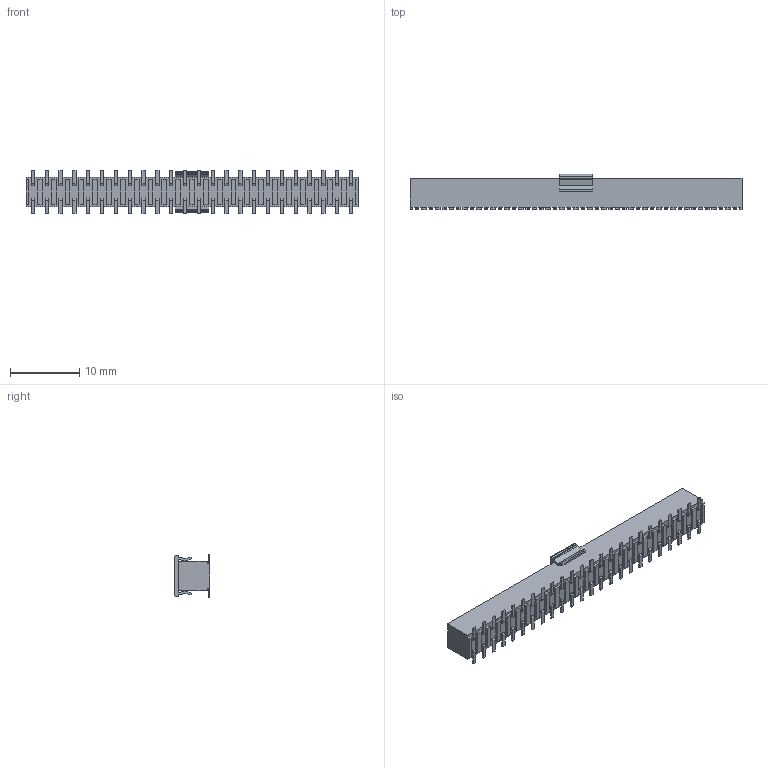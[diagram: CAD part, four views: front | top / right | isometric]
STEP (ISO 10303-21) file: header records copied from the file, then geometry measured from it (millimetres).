
FILE_DESCRIPTION((''),'2;1');
FILE_NAME('873814865','2017-06-15T',('ksrinivasara'),(''),'PRO/ENGINEER BY PARAMETRIC TECHNOLOGY CORPORATION, 2012310','PRO/ENGINEER BY PARAMETRIC TECHNOLOGY CORPORATION, 2012310','');
FILE_SCHEMA(('CONFIG_CONTROL_DESIGN'));
Length unit declared in the file: millimetre
Products named in the file (1): 873814865
Bounding box: 48 x 5.1 x 6.2 mm (x, y, z)
Volume: 876.2 mm3; surface area: 1175 mm2
Topology: 1 solids, 5 shells, 1029 faces, 2708 edges, 1804 vertices
Faces by surface type: plane 923, cylinder 106
Entity records: 30773 total; most frequent: CARTESIAN_POINT 5350, ORIENTED_EDGE 5032, DIRECTION 4980, EDGE_CURVE 2516, VECTOR 2496, LINE 2496, VERTEX_POINT 1612, AXIS2_PLACEMENT_3D 1242
